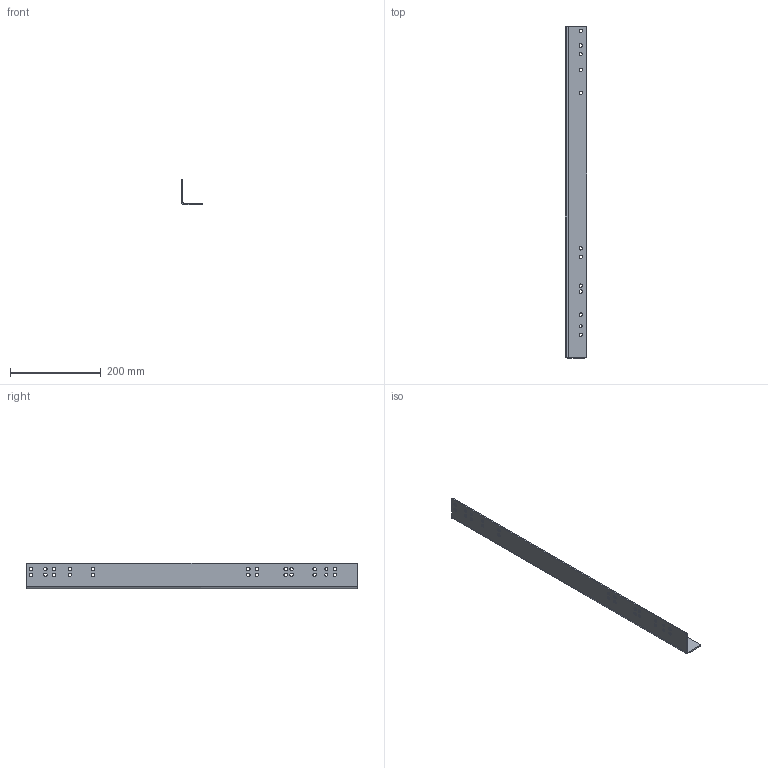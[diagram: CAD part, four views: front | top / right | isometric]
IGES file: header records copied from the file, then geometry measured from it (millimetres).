
Global section: file name: WI-IN_2257619-730_links; native system: Autodesk Inventor 2015; preprocessor: unknown; author: MelKon; date: 20171024.135100; units: millimetre
Bounding box: 46.2 x 730 x 55.9 mm (x, y, z)
Volume: 209988.6 mm3; surface area: 146598.4 mm2
Topology: 1 solids, 1 shells, 149 faces, 441 edges, 294 vertices
Faces by surface type: bspline 149
